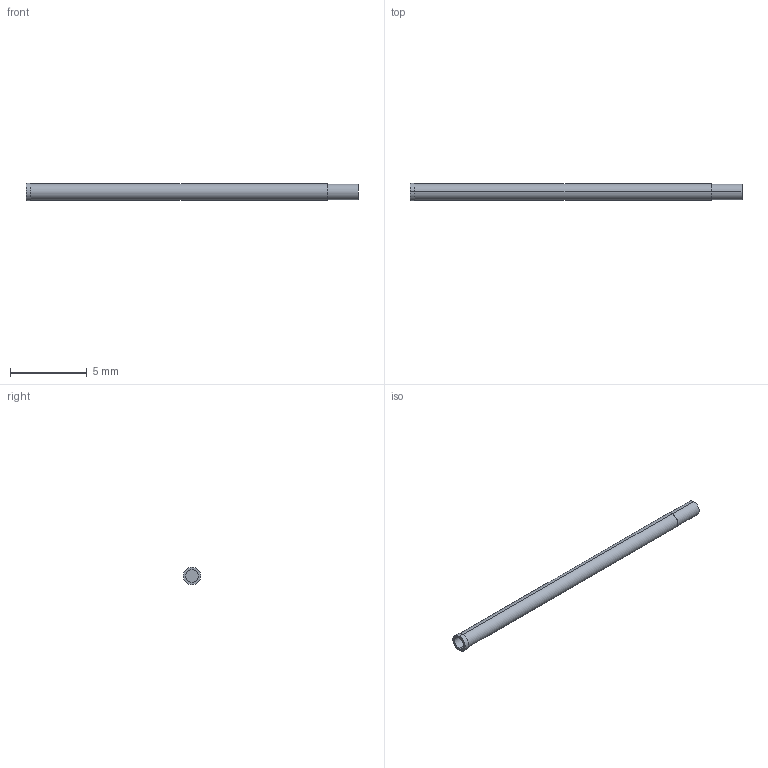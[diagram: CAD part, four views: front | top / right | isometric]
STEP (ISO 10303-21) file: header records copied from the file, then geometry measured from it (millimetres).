
FILE_DESCRIPTION (( 'STEP AP203' ), '1' );
FILE_NAME ('IS080-E.STEP', '2014-08-20T07:59:05', ( '' ), ( '' ), 'SwSTEP 2.0', 'SolidWorks 2011', '' );
FILE_SCHEMA (( 'CONFIG_CONTROL_DESIGN' ));
Length unit declared in the file: millimetre
Products named in the file (1): IS080-E
Bounding box: 21.7 x 1.15 x 1.15 mm (x, y, z)
Volume: 8.4 mm3; surface area: 123 mm2
Topology: 1 solids, 1 shells, 16 faces, 30 edges, 20 vertices
Faces by surface type: cylinder 10, plane 6
Entity records: 491 total; most frequent: DIRECTION 84, CARTESIAN_POINT 67, ORIENTED_EDGE 60, AXIS2_PLACEMENT_3D 37, EDGE_CURVE 30, EDGE_LOOP 20, CIRCLE 20, VERTEX_POINT 20
